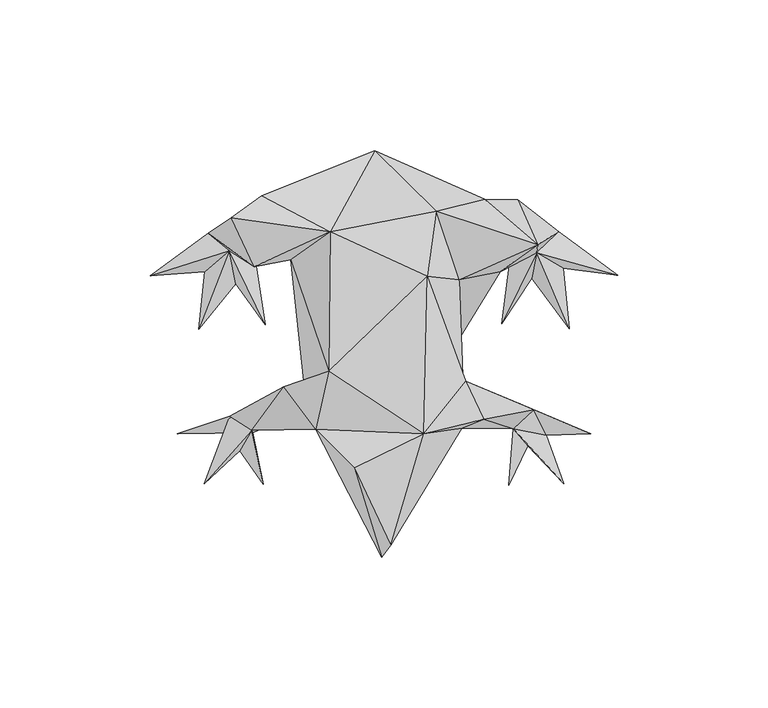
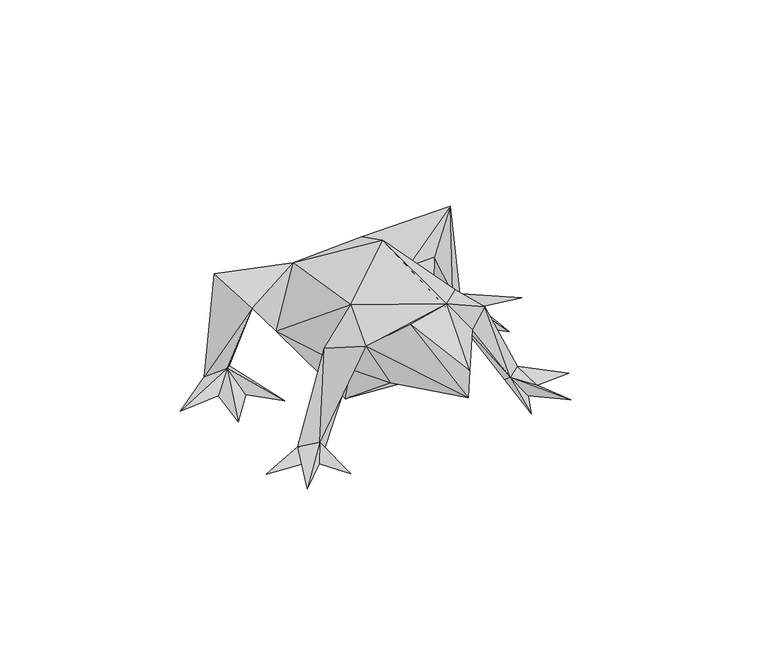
"""IFC4 building model written with IfcOpenShell, lengths in millimetres: geographic element geometry, Enscape AssetDefinition - Frog 1 : Enscape AssetDefinition - Frog 1."""

from ifc_helpers import new_model, si_unit, origin, place, context, project, spatial, faceted_brep, source, transform, mapped, element, save


def geographic_element_d5cf713a(model_context):
    return source(origin(), model_context, "Body", "Brep", [
        faceted_brep([(-15.8339273, -47.3731831, 30.3235613), (-22.6839799, -40.2838774, 45.8359942), (-25.6910659, -33.4801786, 31.8442993), (-0.7461639, -82.7673674, 39.1593985), (-43.8935757, -40.5799523, 7.4048168), (-33.3156958, -26.109755, 39.9549082), (-18.4268076, -21.0436173, 52.4976403), (-9.949849, -53.0090369, 59.7260073), (13.1602976, -41.750785, 54.6329543), (-42.1619974, -33.1646688, 0.3633624), (-51.219143, -35.9743685, 4.8867003), (-43.5975045, -41.3814411, -0.0448596), (-68.6784759, -41.7433083, 1.5012997), (-59.7424582, -58.4714375, 1.4340105), (-47.9324348, -47.4060774, 2.540546), (-40.185187, -58.5940517, 1.8841013), (-18.3699857, -16.5501852, 4.6923091), (-30.9201945, 16.0298124, 21.7793137), (11.358439, -51.5077412, 29.8555288), (25.7882625, -40.0386453, 36.7564224), (17.8212039, -21.851087, 7.6874318), (2.2788653, -78.839168, 48.8206483), (33.1228003, -37.0495059, 43.3642343), (27.0682536, -24.4080834, 45.8808541), (14.281786, 10.5569484, 52.9925898), (26.3744257, -27.3688119, 33.5444771), (49.794104, -33.8764414, 7.0608938), (45.1541319, -31.8816863, 0.8448549), (42.9320894, -40.1582718, 7.8294873), (53.8105257, -42.3489138, 1.7136349), (68.6515644, -41.7328402, 1.8332604), (59.7304925, -58.4519953, 2.329706), (47.7724336, -45.8165556, 0.6968184), (41.5070504, -58.9469448, 2.2115759), (11.1161964, 40.3795764, 4.8298785), (38.6180915, 12.0059112, 35.4360566), (24.9837786, 9.4220014, 37.1810906), (-3.07587, 52.3122177, 10.0530256), (33.5175619, 36.1642763, 34.6016698), (-17.870551, 25.2409745, 44.3795547), (-40.5664928, 37.2962318, 39.1549133), (17.2858797, 32.0581309, 40.5590162), (-43.1847945, 13.767397, 38.4341702), (-50.8318543, 30.0319735, 47.8277579), (-44.8176824, 28.9792698, 2.1577445), (50.9963408, 21.0107192, 50.1589626), (44.3451628, 35.8966142, 4.3797875), (50.6733507, 18.4118561, 9.9244285), (58.0377914, 25.3949929, 0.8508362), (39.0936024, -5.2575395, 2.0216706), (49.0314923, 9.8735876, 0.7102762), (77.5621682, 10.8904038, 3.0205431), (59.610866, 13.2709518, 3.306149), (61.5562797, -6.8709878, 3.0160572), (-58.4774166, 24.8178001, 4.3020309), (-51.4000729, 19.050356, 9.2649935), (-77.593565, 10.7408725, 3.0205431), (-39.5302363, -5.6029581, 4.6295058), (-49.2707416, 8.0881771, 2.5584898), (-59.5749803, 11.9864717, 3.3465226), (-61.5607612, -7.0788376, 3.010076)], [[[0, 1, 2]], [[3, 1, 0]], [[1, 4, 2]], [[5, 1, 6]], [[1, 3, 7]], [[8, 6, 1]], [[7, 8, 1]], [[5, 4, 1]], [[5, 6, 2]], [[9, 10, 5]], [[10, 4, 5]], [[9, 5, 2]], [[11, 10, 12]], [[12, 10, 9]], [[13, 10, 11]], [[10, 13, 4]], [[9, 11, 12]], [[2, 11, 9]], [[11, 14, 13]], [[4, 15, 11]], [[11, 15, 14]], [[2, 4, 11]], [[13, 14, 4]], [[14, 15, 4]], [[0, 2, 16]], [[17, 2, 6]], [[17, 16, 2]], [[0, 16, 18]], [[18, 3, 0]], [[19, 3, 18]], [[20, 18, 16]], [[18, 20, 19]], [[3, 21, 7]], [[19, 21, 3]], [[8, 21, 19]], [[7, 21, 8]], [[22, 23, 8]], [[23, 24, 8]], [[8, 24, 6]], [[19, 22, 8]], [[24, 23, 25]], [[23, 26, 27]], [[27, 25, 23]], [[26, 23, 22]], [[22, 28, 26]], [[19, 28, 22]], [[29, 30, 26]], [[29, 26, 28]], [[26, 30, 27]], [[27, 30, 29]], [[29, 31, 27]], [[28, 31, 29]], [[32, 31, 28]], [[27, 31, 32]], [[27, 33, 28]], [[27, 32, 33]], [[27, 28, 25]], [[32, 28, 33]], [[25, 28, 19]], [[20, 25, 19]], [[34, 20, 16]], [[20, 35, 36]], [[35, 20, 34]], [[36, 25, 20]], [[16, 37, 34]], [[17, 37, 16]], [[38, 34, 37]], [[34, 38, 35]], [[39, 37, 40]], [[39, 41, 37]], [[41, 38, 37]], [[17, 40, 37]], [[6, 39, 17]], [[42, 40, 17]], [[39, 42, 17]], [[43, 39, 40]], [[40, 44, 43]], [[44, 40, 42]], [[6, 24, 39]], [[43, 42, 39]], [[39, 24, 41]], [[36, 45, 41]], [[45, 38, 41]], [[36, 41, 24]], [[25, 36, 24]], [[36, 35, 45]], [[45, 46, 38]], [[45, 47, 48]], [[45, 48, 46]], [[35, 47, 45]], [[46, 47, 35]], [[38, 46, 35]], [[46, 49, 47]], [[46, 48, 49]], [[50, 49, 48]], [[48, 51, 52]], [[47, 51, 48]], [[50, 48, 52]], [[47, 49, 50]], [[47, 53, 52]], [[50, 53, 47]], [[52, 51, 47]], [[52, 53, 50]], [[43, 54, 42]], [[54, 43, 44]], [[55, 42, 54]], [[44, 56, 54]], [[56, 55, 54]], [[44, 42, 55]], [[57, 58, 44]], [[44, 58, 59]], [[59, 56, 44]], [[55, 57, 44]], [[56, 59, 55]], [[58, 57, 55]], [[59, 60, 55]], [[55, 60, 58]], [[60, 59, 58]]]),
    ])


if __name__ == "__main__":
    model = new_model("IFC4")
    model_context = context("Model", 3, world=origin())
    ifc_project = project(units=[si_unit("LENGTHUNIT", "METRE", prefix="MILLI")], contexts=[model_context])
    site = spatial("IfcSite", under=ifc_project)
    building = spatial("IfcBuilding", under=site)
    placement = place(None, origin())
    geographic_element_shape = geographic_element_d5cf713a(model_context)
    element("IfcGeographicElement", 1, ObjectType="Enscape AssetDefinition - Frog 1 : Enscape AssetDefinition - Frog 1", at=placement, inside=building, context=model_context, shape_type="MappedRepresentation", body=[
        mapped(geographic_element_shape, transform((0.0, 0.0, 0.0), x_axis=(1.0, 0.0, 0.0), y_axis=(0.0, 1.0, 0.0), z_axis=(0.0, 0.0, 1.0))),
    ])
    save(model, "model.ifc")
